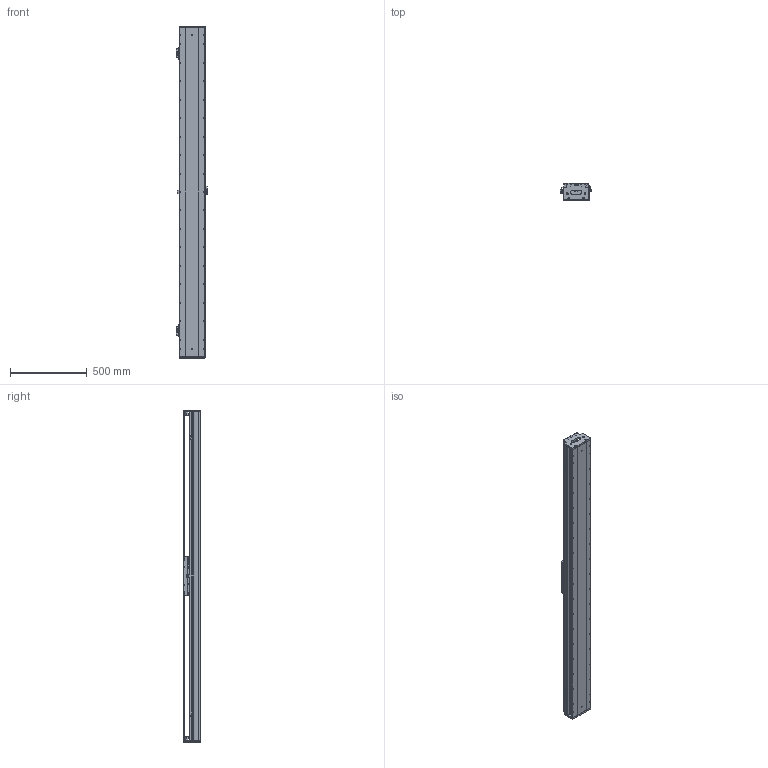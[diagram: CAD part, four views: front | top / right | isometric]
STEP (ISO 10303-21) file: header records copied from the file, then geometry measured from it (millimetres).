
FILE_DESCRIPTION (( 'STEP AP203' ), '1' );
FILE_NAME ('DKW168-C3-W090（T1800-L005-0.2）.STEP', '2021-09-13T08:17:41', ( '微软用户' ), ( '微软中国' ), 'SwSTEP 2.0', 'SolidWorks 2018', '' );
FILE_SCHEMA (( 'CONFIG_CONTROL_DESIGN' ));
Length unit declared in the file: millimetre
Products named in the file (26): CKM03-W090-C1C2-TP-0.2 珨极萇儂; RUS嫖掑郪璃; 10392-0001-003-00 詩湍嶺輸; DKW168-HYB-00 賑輸揤啣; pm-y65; 10392-0001-004-00 詩湍揤輸; C3-W090; 10980-0001-003-00 嫖萇羲壽嘐隅釱; 10279-0001-006-00 嶺輸菜輸; 10392-0001-001-00 菁釱; 嫖萇羲壽蚾饜极; DKW168 单轴模组-拉钢带组件; MSA20絳寢; DKW-SG-GYP-H-00 嫖萇覜茼え; CKM01-W090-TRL280; 10279-0001-003-00 傷啣; 嫖萇羲壽蚾饜极A; DKW168-RU-DTJ-00 RU2黍杅芛盓殤; DKW168-HXJ-00 遣喳砎蝶; DKW168-C3-W090-HTB-04 C3-W090賑怢啣; DKW168-C3-W090（T1800-L005-0.2）; RUS嫖掑喜; 10392-0001-002-00 詩湍裔啣; MSB20S1FC; Ru2; 砎蝶猾沭
Assembly tree (41 placements, depth 3):
  DKW168-C3-W090（T1800-L005-0.2）
    C3-W090
      DKW168-C3-W090-HTB-04 C3-W090賑怢啣
      MSB20S1FC  x4
      CKM03-W090-C1C2-TP-0.2 珨极萇儂
      DKW168-HYB-00 賑輸揤啣  x2
    10392-0001-001-00 菁釱
    MSA20絳寢  x2
    DKW168 单轴模组-拉钢带组件
      10279-0001-003-00 傷啣  x2
      DKW168-HXJ-00 遣喳砎蝶  x4
      10392-0001-002-00 詩湍裔啣
      砎蝶猾沭  x2
      10392-0001-003-00 詩湍嶺輸  x2
      10392-0001-004-00 詩湍揤輸  x2
      10279-0001-006-00 嶺輸菜輸  x2
    CKM01-W090-TRL280
    DKW168-RU-DTJ-00 RU2黍杅芛盓殤
    RUS嫖掑郪璃
      RUS嫖掑喜
      Ru2
    嫖萇羲壽蚾饜极
      pm-y65
      10980-0001-003-00 嫖萇羲壽嘐隅釱
    DKW-SG-GYP-H-00 嫖萇覜茼え
    嫖萇羲壽蚾饜极A
      pm-y65  x2
      10980-0001-003-00 嫖萇羲壽嘐隅釱
Bounding box: 202.1 x 109 x 2160 mm (x, y, z)
Volume: 14402669.3 mm3; surface area: 4198830.3 mm2
Topology: 48 solids, 97 shells, 4864 faces, 12751 edges, 8130 vertices
Faces by surface type: plane 2425, cylinder 1618, cone 510, bspline 279, torus 16, sphere 16
Entity records: 121965 total; most frequent: CARTESIAN_POINT 41070, ORIENTED_EDGE 16249, DIRECTION 15510, EDGE_CURVE 8165, VERTEX_POINT 5325, AXIS2_PLACEMENT_3D 5282, LINE 4946, VECTOR 4946
